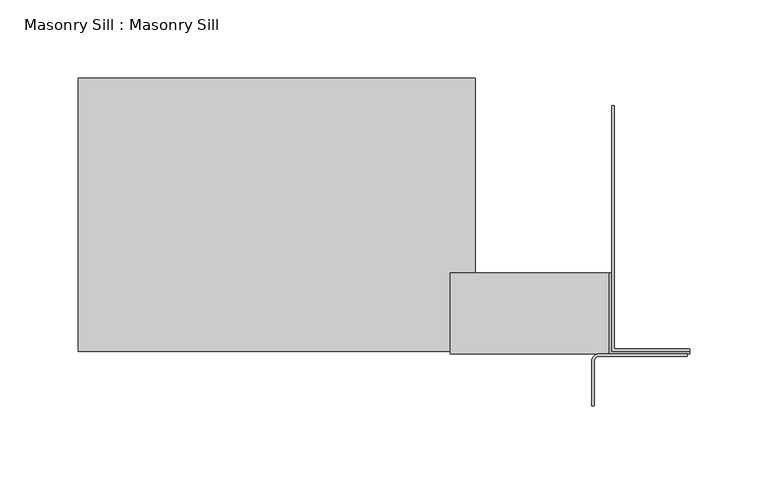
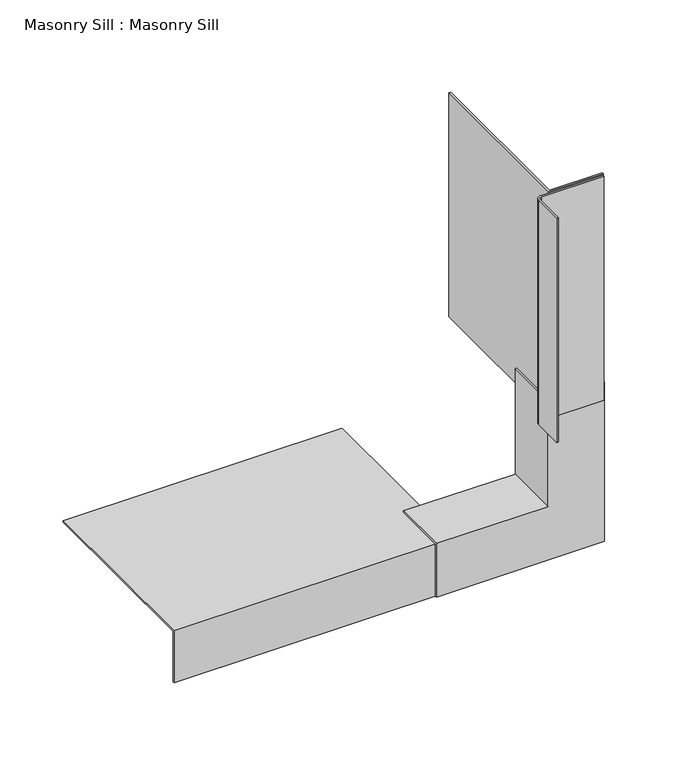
"""IFC4 building model written with IfcOpenShell, lengths in millimetres: proxy geometry, Masonry Sill : Masonry Sill."""

from ifc_helpers import new_model, si_unit, point, frame, frame_2d, origin, place, context, project, spatial, polyline, circle_curve, trimmed, segment, composite_curve, outline, extrude, faceted_brep, source, transform, mapped, element, save


def masonry_sill_masonry_sill_e13b050d(model_context):
    return source(origin(), model_context, "Body", "SolidModel", [
        extrude(outline(composite_curve([segment(trimmed(circle_curve(frame_2d((26847.9476773, 626.0441297)), 3.175), [point((26847.9476773, 629.2191297))], [point((26844.7726773, 626.0441297))], True, "CARTESIAN"), True, "CONTINUOUS"), segment(polyline([(26844.7726773, 626.0441297), (26844.7726773, 597.4691297), (26843.1851773, 597.4691297), (26843.1851773, 626.0441297)]), True, "CONTINUOUS"), segment(trimmed(circle_curve(frame_2d((26847.9476773, 626.0441297)), 4.7625), [point((26843.1851773, 626.0441297))], [point((26847.9476773, 630.8066297))], False, "CARTESIAN"), True, "CONTINUOUS"), segment(polyline([(26847.9476773, 630.8066297), (26904.3024931, 630.8066297), (26904.3024931, 629.2191297), (26847.9476773, 629.2191297)]), True, "CONTINUOUS")], self_intersect=False)), frame((0.0, 0.0, 546.1), z_axis=(0.0, 0.0, 1.0), x_axis=(1.0, 0.0, 0.0)), (0.0, 0.0, 1.0), 215.9),
        extrude(outline(polyline([(26855.8851773, 632.3941297), (26855.8851773, 789.5566297), (26857.4726773, 789.5566297), (26857.4726773, 633.9816297), (26905.8899931, 633.9816297), (26905.8899931, 632.3941297), (26855.8851773, 632.3941297)])), frame((0.0, 0.0, 546.1), z_axis=(0.0, 0.0, 1.0), x_axis=(1.0, 0.0, 0.0)), (0.0, 0.0, 1.0), 215.9),
        faceted_brep([(26752.6976773, 630.8066297, 408.7826842), (26752.6976773, 630.8066297, 460.375), (26752.6976773, 682.3989454, 460.375), (26752.6976773, 682.3989454, 458.7875), (26752.6976773, 632.3941297, 458.7875), (26752.6976773, 632.3941297, 408.7826842), (26905.8899931, 632.3941297, 408.7826842), (26905.8899931, 630.8066297, 408.7826842), (26855.8851773, 632.3941297, 458.7875), (26855.8851773, 632.3941297, 561.975), (26905.8899931, 632.3941297, 561.975), (26855.8851773, 682.3989454, 458.7875), (26854.2976773, 682.3989454, 460.375), (26854.2976773, 682.3989454, 561.975), (26855.8851773, 682.3989454, 561.975), (26854.2976773, 630.8066297, 460.375), (26905.8899931, 630.8066297, 561.975), (26854.2976773, 630.8066297, 561.975)], [[[0, 1, 2, 3, 4, 5]], [[0, 5, 6, 7]], [[5, 4, 8, 9, 10, 6]], [[4, 3, 11, 8]], [[3, 2, 12, 13, 14, 11]], [[2, 1, 15, 12]], [[1, 0, 7, 16, 17, 15]], [[16, 10, 9, 14, 13, 17]], [[7, 6, 10, 16]], [[8, 11, 14, 9]], [[12, 15, 17, 13]]]),
        extrude(outline(polyline([(632.3941297, 458.7875), (807.2950925, 458.7875), (807.2950925, 457.2), (633.9816297, 457.2), (633.9816297, 408.7826842), (632.3941297, 408.7826842), (632.3941297, 458.7875)])), frame((26514.5726773, 0.0, 0.0), z_axis=(1.0, 0.0, 0.0), x_axis=(0.0, 1.0, 0.0)), (0.0, 0.0, 1.0), 254.0),
    ])


if __name__ == "__main__":
    model = new_model("IFC4")
    model_context = context("Model", 3, world=origin())
    ifc_project = project(units=[si_unit("LENGTHUNIT", "METRE", prefix="MILLI")], contexts=[model_context])
    site = spatial("IfcSite", under=ifc_project)
    building = spatial("IfcBuilding", under=site)
    placement = place(None, origin())
    masonry_sill_masonry_sill_shape = masonry_sill_masonry_sill_e13b050d(model_context)
    element("IfcBuildingElementProxy", 1, Name="Masonry Sill : Masonry Sill", ObjectType="Masonry Sill : Masonry Sill", at=placement, inside=building, context=model_context, shape_type="MappedRepresentation", body=[
        mapped(masonry_sill_masonry_sill_shape, transform((0.0, 0.0, 0.0), x_axis=(1.0, 0.0, 0.0), y_axis=(0.0, 1.0, 0.0), z_axis=(0.0, 0.0, 1.0))),
    ])
    save(model, "model.ifc")
